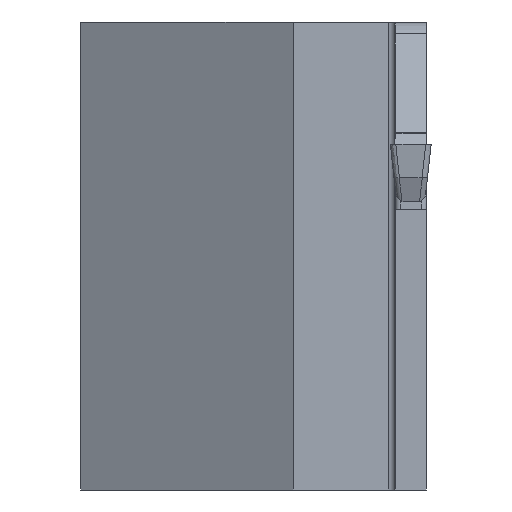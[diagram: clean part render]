
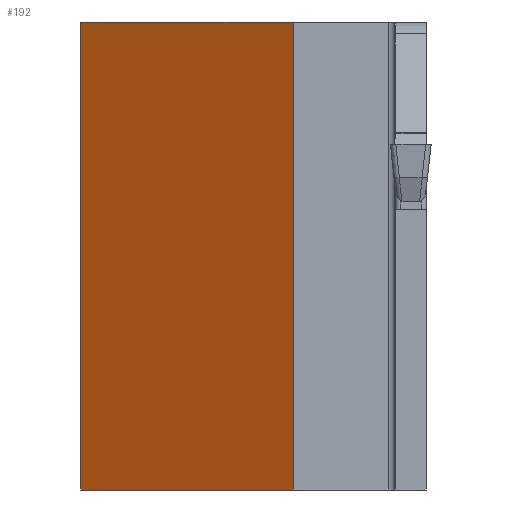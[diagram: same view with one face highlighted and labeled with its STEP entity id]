
A CAD part, left-side view. The second image highlights one B-rep face of the part: STEP entity #192.
In plain terms, the highlighted planar face has unit normal (-0.866, 0.5, 0).
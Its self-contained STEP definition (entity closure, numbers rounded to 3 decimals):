
#192=ADVANCED_FACE('',(#287),#235,.F.);
#235=PLANE('',#1174);
#287=FACE_OUTER_BOUND('',#342,.T.);
#342=EDGE_LOOP('',(#583,#584,#585,#586));
#583=ORIENTED_EDGE('',*,*,#851,.T.);
#584=ORIENTED_EDGE('',*,*,#857,.F.);
#585=ORIENTED_EDGE('',*,*,#869,.F.);
#586=ORIENTED_EDGE('',*,*,#868,.T.);
#723=VERTEX_POINT('',#1754);
#724=VERTEX_POINT('',#1756);
#729=VERTEX_POINT('',#1767);
#736=VERTEX_POINT('',#1786);
#851=EDGE_CURVE('',#724,#723,#966,.T.);
#857=EDGE_CURVE('',#729,#723,#971,.T.);
#868=EDGE_CURVE('',#736,#724,#980,.T.);
#869=EDGE_CURVE('',#736,#729,#981,.T.);
#966=LINE('',#1755,#1081);
#971=LINE('',#1768,#1086);
#980=LINE('',#1788,#1095);
#981=LINE('',#1790,#1096);
#1081=VECTOR('',#1384,1.);
#1086=VECTOR('',#1393,1.);
#1095=VECTOR('',#1410,1.);
#1096=VECTOR('',#1413,1.);
#1174=AXIS2_PLACEMENT_3D('',#1791,#1414,#1415);
#1384=DIRECTION('',(0.5,0.866,0.));
#1393=DIRECTION('',(0.,0.,1.));
#1410=DIRECTION('',(0.,0.,1.));
#1413=DIRECTION('',(0.5,0.866,0.));
#1414=DIRECTION('',(0.866,-0.5,0.));
#1415=DIRECTION('',(0.5,0.866,0.));
#1754=CARTESIAN_POINT('',(26.787,24.25,9.));
#1755=CARTESIAN_POINT('',(17.78,8.65,9.));
#1756=CARTESIAN_POINT('',(17.78,8.65,9.));
#1767=CARTESIAN_POINT('',(26.787,24.25,-25.4));
#1768=CARTESIAN_POINT('',(26.787,24.25,-25.4));
#1786=CARTESIAN_POINT('',(17.78,8.65,-25.4));
#1788=CARTESIAN_POINT('',(17.78,8.65,-25.4));
#1790=CARTESIAN_POINT('',(17.78,8.65,-25.4));
#1791=CARTESIAN_POINT('',(17.78,8.65,-25.4));
